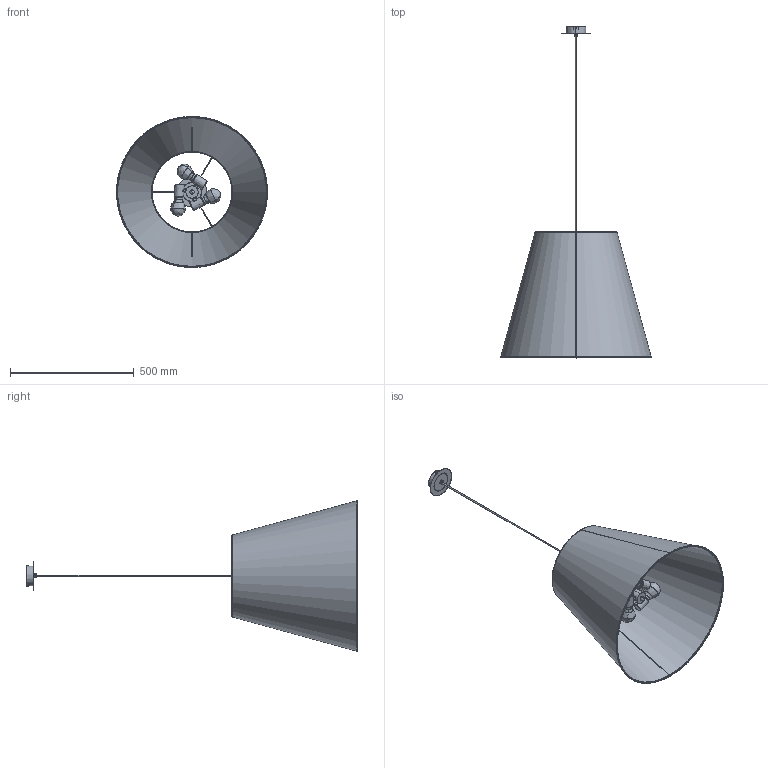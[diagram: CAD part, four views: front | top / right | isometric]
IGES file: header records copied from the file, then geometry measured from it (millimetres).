
Start section: SolidWorks IGES file using analytic representation for surfaces
Global section: file name: E:\3D lampy\Moss\Moss_9737.IGS; native system: SolidWorks 2016; preprocessor: SolidWorks 2016; author: Asia; date: 170928.154231; units: millimetre
Bounding box: 610.53 x 1342.2 x 610.53 mm (x, y, z)
Surface area: 1846734.8 mm2 (no closed solid volume)
Topology: 0 solids, 0 shells, 621 faces, 9119 edges, 9053 vertices
Faces by surface type: bspline 336, revolution 285
